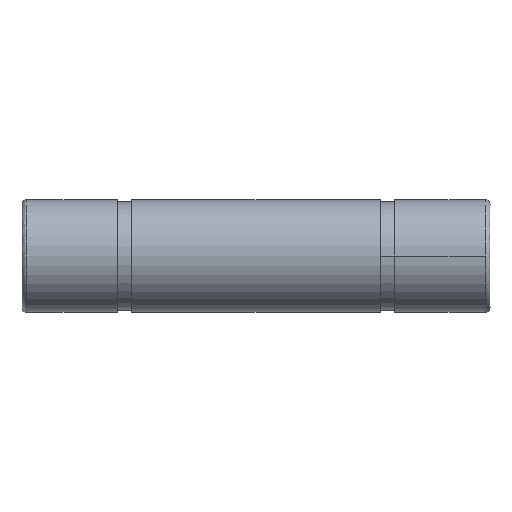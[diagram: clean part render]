
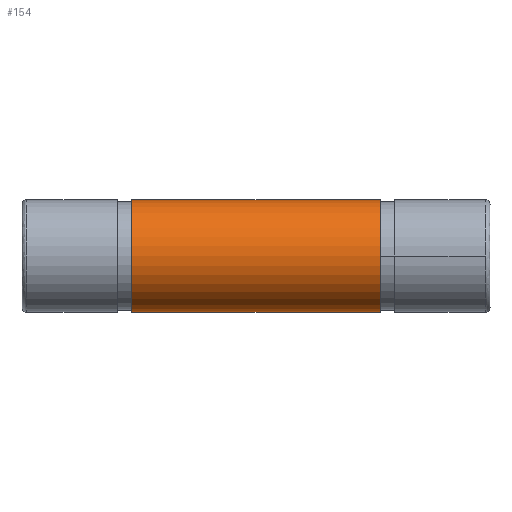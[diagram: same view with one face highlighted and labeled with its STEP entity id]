
A CAD part, left-side view. The second image highlights one B-rep face of the part: STEP entity #154.
In plain terms, the highlighted cylindrical face has radius 6 mm (diameter 12 mm), a partial arc.
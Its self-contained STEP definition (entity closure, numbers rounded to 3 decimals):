
#14 = CIRCLE ( 'NONE', #332, 6. ) ;
#30 = CIRCLE ( 'NONE', #282, 6. ) ;
#69 = ORIENTED_EDGE ( 'NONE', *, *, #822, .T. ) ;
#154 = ADVANCED_FACE ( 'NONE', ( #504 ), #515, .T. ) ;
#250 = EDGE_LOOP ( 'NONE', ( #1069, #958, #69, #1074 ) ) ;
#263 = VERTEX_POINT ( 'NONE', #894 ) ;
#282 = AXIS2_PLACEMENT_3D ( 'NONE', #423, #421, #389 ) ;
#290 = DIRECTION ( 'NONE',  ( 0., 0., -1. ) ) ;
#296 = VECTOR ( 'NONE', #439, 1000. ) ;
#299 = DIRECTION ( 'NONE',  ( 0., 1., 0. ) ) ;
#332 = AXIS2_PLACEMENT_3D ( 'NONE', #1008, #299, #290 ) ;
#341 = VERTEX_POINT ( 'NONE', #603 ) ;
#366 = CARTESIAN_POINT ( 'NONE',  ( 0., 38.3, -6. ) ) ;
#389 = DIRECTION ( 'NONE',  ( 0., 0., -1. ) ) ;
#421 = DIRECTION ( 'NONE',  ( 0., -1., 0. ) ) ;
#423 = CARTESIAN_POINT ( 'NONE',  ( 0., 11.7, 0. ) ) ;
#428 = CARTESIAN_POINT ( 'NONE',  ( 0., 38.3, 6. ) ) ;
#439 = DIRECTION ( 'NONE',  ( 0., -1., 0. ) ) ;
#504 = FACE_OUTER_BOUND ( 'NONE', #250, .T. ) ;
#515 = CYLINDRICAL_SURFACE ( 'NONE', #919, 6. ) ;
#551 = VERTEX_POINT ( 'NONE', #1092 ) ;
#603 = CARTESIAN_POINT ( 'NONE',  ( 0., 11.7, 6. ) ) ;
#696 = EDGE_CURVE ( 'NONE', #716, #551, #14, .T. ) ;
#716 = VERTEX_POINT ( 'NONE', #366 ) ;
#740 = DIRECTION ( 'NONE',  ( 0., -1., 0. ) ) ;
#780 = DIRECTION ( 'NONE',  ( 0., -1., 0. ) ) ;
#795 = VECTOR ( 'NONE', #740, 1000. ) ;
#822 = EDGE_CURVE ( 'NONE', #716, #263, #991, .T. ) ;
#842 = EDGE_CURVE ( 'NONE', #341, #263, #30, .T. ) ;
#894 = CARTESIAN_POINT ( 'NONE',  ( 0., 11.7, -6. ) ) ;
#919 = AXIS2_PLACEMENT_3D ( 'NONE', #1016, #780, #947 ) ;
#947 = DIRECTION ( 'NONE',  ( 0., 0., -1. ) ) ;
#958 = ORIENTED_EDGE ( 'NONE', *, *, #696, .F. ) ;
#965 = CARTESIAN_POINT ( 'NONE',  ( 0., 38.3, -6. ) ) ;
#969 = LINE ( 'NONE', #428, #795 ) ;
#991 = LINE ( 'NONE', #965, #296 ) ;
#1008 = CARTESIAN_POINT ( 'NONE',  ( 0., 38.3, 0. ) ) ;
#1013 = EDGE_CURVE ( 'NONE', #551, #341, #969, .T. ) ;
#1016 = CARTESIAN_POINT ( 'NONE',  ( 0., 38.3, 0. ) ) ;
#1069 = ORIENTED_EDGE ( 'NONE', *, *, #1013, .F. ) ;
#1074 = ORIENTED_EDGE ( 'NONE', *, *, #842, .F. ) ;
#1092 = CARTESIAN_POINT ( 'NONE',  ( 0., 38.3, 6. ) ) ;
